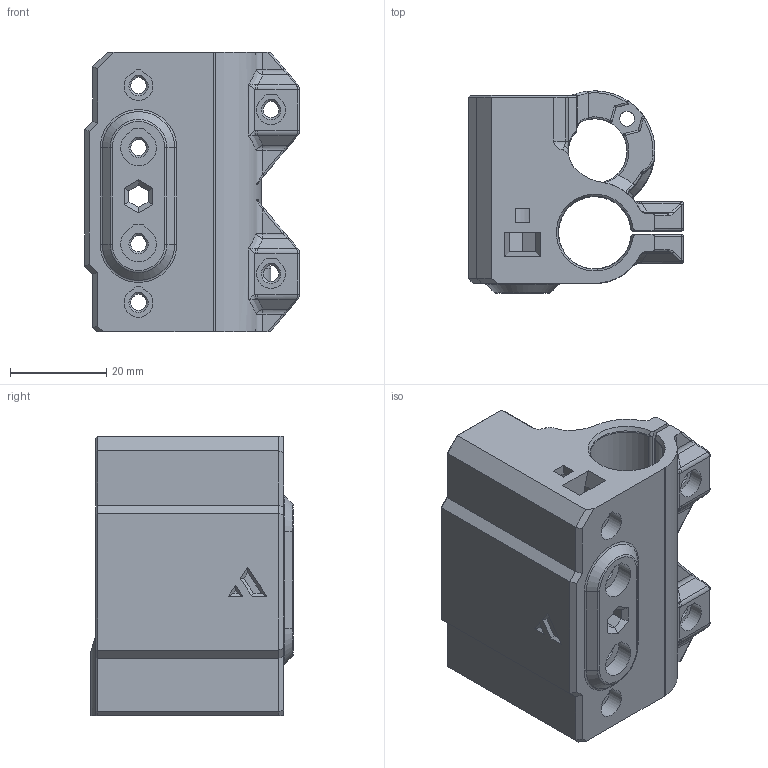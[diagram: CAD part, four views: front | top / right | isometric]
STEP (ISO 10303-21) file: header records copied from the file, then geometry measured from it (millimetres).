
FILE_DESCRIPTION(/* description */ (''),/* implementation_level */ '2;1');
FILE_NAME(/* name */ 'E:/Mihai/3D Printing/My Designs/Pit Stop/Adapted Revised X-Axis/step/X-Idler-3.01 (MK3) v1.step',/* time_stamp */ '2021-01-11T09:07:32+02:00',/* author */ (''),/* organization */ (''),/* preprocessor_version */ 'ST-DEVELOPER v18.1',/* originating_system */ 'Autodesk Translation Framework v9.7.1.1290',/* authorisation */ '');
FILE_SCHEMA (('AUTOMOTIVE_DESIGN { 1 0 10303 214 3 1 1 }'));
Length unit declared in the file: millimetre
Products named in the file (1): X-Idler-3.01 (MK3)
Bounding box: 44.6 x 42 x 58 mm (x, y, z)
Volume: 41121.3 mm3; surface area: 20426.3 mm2
Topology: 1 solids, 1 shells, 628 faces, 1567 edges, 922 vertices
Faces by surface type: plane 315, cylinder 128, bspline 110, torus 35, cone 21, sphere 19
Full cylindrical faces by diameter (mm): 3.1 x3, 10 x2, 13.4 x1
Entity records: 22044 total; most frequent: CARTESIAN_POINT 7786, ORIENTED_EDGE 3070, DIRECTION 2816, EDGE_CURVE 1535, AXIS2_PLACEMENT_3D 960, VERTEX_POINT 922, LINE 896, VECTOR 896
